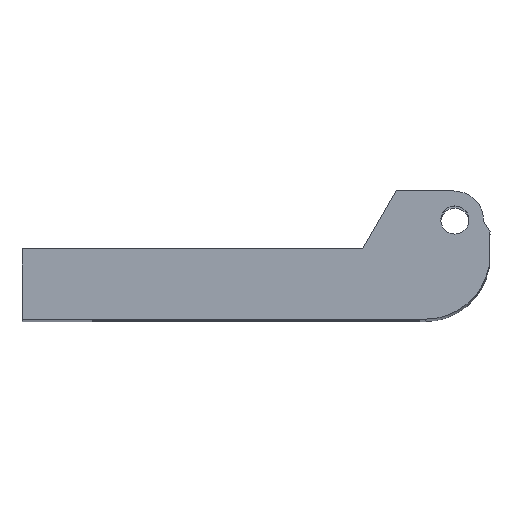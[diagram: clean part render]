
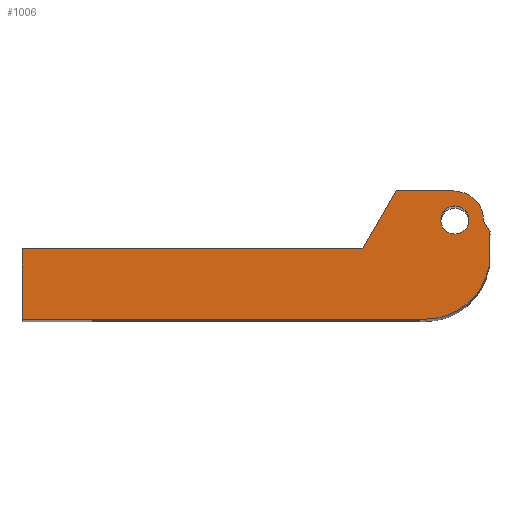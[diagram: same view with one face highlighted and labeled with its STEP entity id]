
A CAD part, top view. The second image highlights one B-rep face of the part: STEP entity #1006.
In plain terms, the highlighted planar face has unit normal (0, 0, 1).
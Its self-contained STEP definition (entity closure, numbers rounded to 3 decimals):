
#20=FACE_BOUND('',#124,.T.);
#28=CIRCLE('',#1055,2.45);
#33=CIRCLE('',#1081,5.5);
#34=CIRCLE('',#1082,1.2);
#66=FACE_OUTER_BOUND('',#123,.T.);
#123=EDGE_LOOP('',(#789,#790,#791,#792,#793,#794,#795,#796,#797,#798));
#124=EDGE_LOOP('',(#799));
#168=LINE('',#1408,#298);
#172=LINE('',#1415,#302);
#192=LINE('',#1462,#322);
#229=LINE('',#1534,#359);
#232=LINE('',#1540,#362);
#240=LINE('',#1555,#370);
#244=LINE('',#1566,#374);
#245=LINE('',#1568,#375);
#298=VECTOR('',#1144,10.);
#302=VECTOR('',#1150,10.);
#322=VECTOR('',#1182,10.);
#359=VECTOR('',#1237,10.);
#362=VECTOR('',#1242,10.);
#370=VECTOR('',#1256,10.);
#374=VECTOR('',#1266,10.);
#375=VECTOR('',#1267,10.);
#425=VERTEX_POINT('',#1393);
#426=VERTEX_POINT('',#1395);
#430=VERTEX_POINT('',#1407);
#432=VERTEX_POINT('',#1413);
#453=VERTEX_POINT('',#1461);
#479=VERTEX_POINT('',#1532);
#481=VERTEX_POINT('',#1538);
#485=VERTEX_POINT('',#1553);
#489=VERTEX_POINT('',#1565);
#490=VERTEX_POINT('',#1567);
#491=VERTEX_POINT('',#1570);
#520=EDGE_CURVE('',#426,#425,#28,.T.);
#526=EDGE_CURVE('',#430,#426,#168,.T.);
#530=EDGE_CURVE('',#425,#432,#172,.T.);
#553=EDGE_CURVE('',#453,#430,#192,.T.);
#590=EDGE_CURVE('',#432,#479,#229,.T.);
#593=EDGE_CURVE('',#479,#481,#232,.T.);
#601=EDGE_CURVE('',#481,#485,#240,.T.);
#606=EDGE_CURVE('',#485,#489,#244,.T.);
#607=EDGE_CURVE('',#489,#490,#245,.T.);
#608=EDGE_CURVE('',#490,#453,#33,.T.);
#609=EDGE_CURVE('',#491,#491,#34,.T.);
#789=ORIENTED_EDGE('',*,*,#530,.T.);
#790=ORIENTED_EDGE('',*,*,#590,.T.);
#791=ORIENTED_EDGE('',*,*,#593,.T.);
#792=ORIENTED_EDGE('',*,*,#601,.T.);
#793=ORIENTED_EDGE('',*,*,#606,.T.);
#794=ORIENTED_EDGE('',*,*,#607,.T.);
#795=ORIENTED_EDGE('',*,*,#608,.T.);
#796=ORIENTED_EDGE('',*,*,#553,.T.);
#797=ORIENTED_EDGE('',*,*,#526,.T.);
#798=ORIENTED_EDGE('',*,*,#520,.T.);
#799=ORIENTED_EDGE('',*,*,#609,.T.);
#958=PLANE('',#1080);
#1006=ADVANCED_FACE('',(#66,#20),#958,.T.);
#1055=AXIS2_PLACEMENT_3D('',#1396,#1133,#1134);
#1080=AXIS2_PLACEMENT_3D('',#1564,#1264,#1265);
#1081=AXIS2_PLACEMENT_3D('',#1569,#1268,#1269);
#1082=AXIS2_PLACEMENT_3D('',#1571,#1270,#1271);
#1133=DIRECTION('center_axis',(0.,0.,1.));
#1134=DIRECTION('ref_axis',(1.,0.,0.));
#1144=DIRECTION('',(-0.535,0.845,0.));
#1150=DIRECTION('',(-0.935,0.356,0.));
#1182=DIRECTION('',(0.,1.,0.));
#1237=DIRECTION('',(-1.,0.,0.));
#1242=DIRECTION('',(-0.5,-0.866,0.));
#1256=DIRECTION('',(-1.,0.,0.));
#1264=DIRECTION('center_axis',(0.,0.,1.));
#1265=DIRECTION('ref_axis',(0.,1.,0.));
#1266=DIRECTION('',(0.,-1.,0.));
#1267=DIRECTION('',(1.,0.,0.));
#1268=DIRECTION('center_axis',(0.,0.,1.));
#1269=DIRECTION('ref_axis',(0.707,-0.707,0.));
#1270=DIRECTION('center_axis',(0.,0.,-1.));
#1271=DIRECTION('ref_axis',(1.,0.,0.));
#1393=CARTESIAN_POINT('',(57.006,-8.55,34.5));
#1395=CARTESIAN_POINT('',(59.447,-11.126,34.5));
#1396=CARTESIAN_POINT('Origin',(57.,-11.,34.5));
#1407=CARTESIAN_POINT('',(60.,-12.,34.5));
#1408=CARTESIAN_POINT('',(57.366,-7.838,34.5));
#1413=CARTESIAN_POINT('',(56.805,-8.473,34.5));
#1415=CARTESIAN_POINT('',(50.421,-6.044,34.5));
#1461=CARTESIAN_POINT('',(60.,-13.973,34.5));
#1462=CARTESIAN_POINT('',(60.,-10.973,34.5));
#1532=CARTESIAN_POINT('',(52.,-8.473,34.5));
#1534=CARTESIAN_POINT('',(56.,-8.473,34.5));
#1538=CARTESIAN_POINT('',(49.113,-13.473,34.5));
#1540=CARTESIAN_POINT('',(51.334,-9.627,34.5));
#1553=CARTESIAN_POINT('',(20.,-13.473,34.5));
#1555=CARTESIAN_POINT('',(40.,-13.473,34.5));
#1564=CARTESIAN_POINT('Origin',(40.,-14.223,34.5));
#1565=CARTESIAN_POINT('',(20.,-19.473,34.5));
#1566=CARTESIAN_POINT('',(20.,-14.223,34.5));
#1567=CARTESIAN_POINT('',(54.5,-19.473,34.5));
#1568=CARTESIAN_POINT('',(40.,-19.473,34.5));
#1569=CARTESIAN_POINT('Origin',(54.5,-13.973,34.5));
#1570=CARTESIAN_POINT('',(55.8,-11.,34.5));
#1571=CARTESIAN_POINT('Origin',(57.,-11.,34.5));
